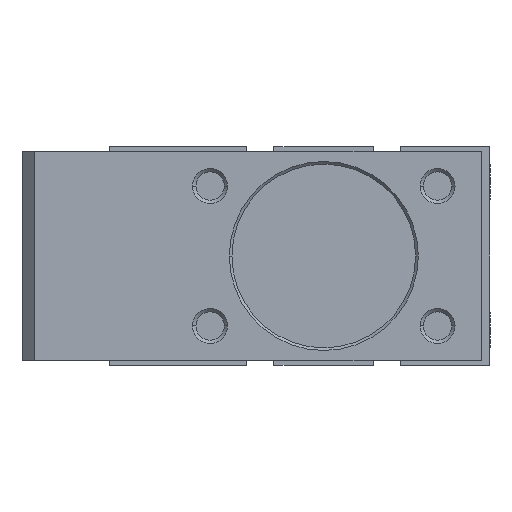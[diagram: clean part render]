
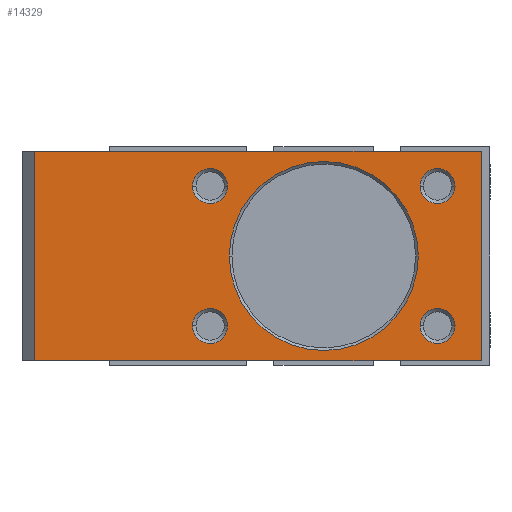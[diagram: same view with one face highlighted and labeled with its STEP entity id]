
A CAD part, left-side view. The second image highlights one B-rep face of the part: STEP entity #14329.
In plain terms, the highlighted planar face has unit normal (-1, 0, 0).
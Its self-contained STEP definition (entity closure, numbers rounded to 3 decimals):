
#66 = FACE_BOUND ( 'NONE', #10476, .T. ) ;
#114 = ORIENTED_EDGE ( 'NONE', *, *, #10474, .F. ) ;
#124 = EDGE_CURVE ( 'NONE', #5939, #2381, #213, .T. ) ;
#213 = CIRCLE ( 'NONE', #2048, 2. ) ;
#225 = LINE ( 'NONE', #11990, #7304 ) ;
#234 = FACE_BOUND ( 'NONE', #10668, .T. ) ;
#308 = CARTESIAN_POINT ( 'NONE',  ( -14., -18., 12. ) ) ;
#766 = DIRECTION ( 'NONE',  ( -1., 0., 0. ) ) ;
#903 = EDGE_LOOP ( 'NONE', ( #1258, #8135 ) ) ;
#939 = CIRCLE ( 'NONE', #4715, 10.8 ) ;
#984 = DIRECTION ( 'NONE',  ( -1., 0., 0. ) ) ;
#1028 = CARTESIAN_POINT ( 'NONE',  ( -14., -13., 8. ) ) ;
#1218 = VERTEX_POINT ( 'NONE', #12277 ) ;
#1245 = CIRCLE ( 'NONE', #11069, 2. ) ;
#1258 = ORIENTED_EDGE ( 'NONE', *, *, #3935, .F. ) ;
#1514 = LINE ( 'NONE', #11124, #2016 ) ;
#1651 = CIRCLE ( 'NONE', #1717, 2. ) ;
#1655 = ORIENTED_EDGE ( 'NONE', *, *, #6856, .F. ) ;
#1677 = FACE_BOUND ( 'NONE', #8146, .T. ) ;
#1717 = AXIS2_PLACEMENT_3D ( 'NONE', #3598, #13664, #2322 ) ;
#1776 = ORIENTED_EDGE ( 'NONE', *, *, #8162, .F. ) ;
#1854 = CIRCLE ( 'NONE', #3685, 2. ) ;
#1886 = DIRECTION ( 'NONE',  ( -1., 0., 0. ) ) ;
#2016 = VECTOR ( 'NONE', #3252, 1000. ) ;
#2048 = AXIS2_PLACEMENT_3D ( 'NONE', #12301, #8964, #14433 ) ;
#2102 = DIRECTION ( 'NONE',  ( 0., -1., 0. ) ) ;
#2136 = VERTEX_POINT ( 'NONE', #3632 ) ;
#2322 = DIRECTION ( 'NONE',  ( 0., -1., 0. ) ) ;
#2381 = VERTEX_POINT ( 'NONE', #7102 ) ;
#2536 = EDGE_LOOP ( 'NONE', ( #9737, #12444, #11538, #6175 ) ) ;
#2829 = LINE ( 'NONE', #12435, #9996 ) ;
#3013 = DIRECTION ( 'NONE',  ( 0., -1., 0. ) ) ;
#3023 = VERTEX_POINT ( 'NONE', #5671 ) ;
#3252 = DIRECTION ( 'NONE',  ( 0., 0., -1. ) ) ;
#3308 = DIRECTION ( 'NONE',  ( -1., 0., 0. ) ) ;
#3582 = AXIS2_PLACEMENT_3D ( 'NONE', #7535, #12049, #2102 ) ;
#3598 = CARTESIAN_POINT ( 'NONE',  ( -14., -13., -8. ) ) ;
#3632 = CARTESIAN_POINT ( 'NONE',  ( -14., 11., 8. ) ) ;
#3677 = CARTESIAN_POINT ( 'NONE',  ( -14., 10.8, 0. ) ) ;
#3685 = AXIS2_PLACEMENT_3D ( 'NONE', #8870, #13357, #5070 ) ;
#3723 = ORIENTED_EDGE ( 'NONE', *, *, #12947, .F. ) ;
#3935 = EDGE_CURVE ( 'NONE', #11330, #14163, #1854, .T. ) ;
#3984 = VERTEX_POINT ( 'NONE', #6118 ) ;
#4048 = DIRECTION ( 'NONE',  ( 0., -1., 0. ) ) ;
#4194 = PLANE ( 'NONE',  #7996 ) ;
#4291 = DIRECTION ( 'NONE',  ( 0., -1., 0. ) ) ;
#4715 = AXIS2_PLACEMENT_3D ( 'NONE', #13019, #13969, #4048 ) ;
#4779 = VERTEX_POINT ( 'NONE', #3677 ) ;
#5070 = DIRECTION ( 'NONE',  ( 0., -1., 0. ) ) ;
#5136 = AXIS2_PLACEMENT_3D ( 'NONE', #7470, #1886, #3013 ) ;
#5355 = CARTESIAN_POINT ( 'NONE',  ( -14., 33.086, 12. ) ) ;
#5383 = CIRCLE ( 'NONE', #11091, 2. ) ;
#5494 = DIRECTION ( 'NONE',  ( 1., 0., 0. ) ) ;
#5671 = CARTESIAN_POINT ( 'NONE',  ( -14., 33.086, 12. ) ) ;
#5688 = FACE_BOUND ( 'NONE', #903, .T. ) ;
#5719 = DIRECTION ( 'NONE',  ( -1., 0., 0. ) ) ;
#5828 = EDGE_LOOP ( 'NONE', ( #7207, #1776 ) ) ;
#5847 = VECTOR ( 'NONE', #10491, 1000. ) ;
#5865 = EDGE_CURVE ( 'NONE', #2136, #1218, #1245, .T. ) ;
#5939 = VERTEX_POINT ( 'NONE', #10069 ) ;
#6025 = CARTESIAN_POINT ( 'NONE',  ( -14., 0., -12. ) ) ;
#6118 = CARTESIAN_POINT ( 'NONE',  ( -14., -15., 8. ) ) ;
#6144 = CIRCLE ( 'NONE', #5136, 2. ) ;
#6175 = ORIENTED_EDGE ( 'NONE', *, *, #10422, .T. ) ;
#6337 = CARTESIAN_POINT ( 'NONE',  ( -14., 33.086, -12. ) ) ;
#6566 = EDGE_CURVE ( 'NONE', #3023, #6624, #2829, .T. ) ;
#6624 = VERTEX_POINT ( 'NONE', #308 ) ;
#6706 = CARTESIAN_POINT ( 'NONE',  ( -14., -15., -8. ) ) ;
#6856 = EDGE_CURVE ( 'NONE', #1218, #2136, #6144, .T. ) ;
#7102 = CARTESIAN_POINT ( 'NONE',  ( -14., 15., -8. ) ) ;
#7182 = VERTEX_POINT ( 'NONE', #12353 ) ;
#7207 = ORIENTED_EDGE ( 'NONE', *, *, #124, .F. ) ;
#7214 = CIRCLE ( 'NONE', #13980, 2. ) ;
#7304 = VECTOR ( 'NONE', #7526, 1000. ) ;
#7470 = CARTESIAN_POINT ( 'NONE',  ( -14., 13., 8. ) ) ;
#7524 = CIRCLE ( 'NONE', #9040, 2. ) ;
#7526 = DIRECTION ( 'NONE',  ( 0., 0., 1. ) ) ;
#7535 = CARTESIAN_POINT ( 'NONE',  ( -14., 0., 0. ) ) ;
#7769 = EDGE_CURVE ( 'NONE', #3984, #7182, #5383, .T. ) ;
#7826 = DIRECTION ( 'NONE',  ( 0., -1., 0. ) ) ;
#7996 = AXIS2_PLACEMENT_3D ( 'NONE', #5355, #5494, #13258 ) ;
#8135 = ORIENTED_EDGE ( 'NONE', *, *, #10589, .F. ) ;
#8146 = EDGE_LOOP ( 'NONE', ( #114, #11965 ) ) ;
#8162 = EDGE_CURVE ( 'NONE', #2381, #5939, #7524, .T. ) ;
#8529 = CARTESIAN_POINT ( 'NONE',  ( -14., -10.8, 0. ) ) ;
#8707 = EDGE_CURVE ( 'NONE', #3023, #13773, #1514, .T. ) ;
#8870 = CARTESIAN_POINT ( 'NONE',  ( -14., -13., -8. ) ) ;
#8964 = DIRECTION ( 'NONE',  ( -1., 0., 0. ) ) ;
#9040 = AXIS2_PLACEMENT_3D ( 'NONE', #13041, #766, #11995 ) ;
#9237 = FACE_OUTER_BOUND ( 'NONE', #2536, .T. ) ;
#9459 = CARTESIAN_POINT ( 'NONE',  ( -14., -11., -8. ) ) ;
#9712 = EDGE_CURVE ( 'NONE', #4779, #13350, #13323, .T. ) ;
#9737 = ORIENTED_EDGE ( 'NONE', *, *, #10463, .T. ) ;
#9996 = VECTOR ( 'NONE', #7826, 1000. ) ;
#10069 = CARTESIAN_POINT ( 'NONE',  ( -14., 11., -8. ) ) ;
#10422 = EDGE_CURVE ( 'NONE', #13773, #12833, #12212, .T. ) ;
#10463 = EDGE_CURVE ( 'NONE', #12833, #6624, #225, .T. ) ;
#10474 = EDGE_CURVE ( 'NONE', #13350, #4779, #939, .T. ) ;
#10476 = EDGE_LOOP ( 'NONE', ( #13040, #1655 ) ) ;
#10491 = DIRECTION ( 'NONE',  ( 0., -1., 0. ) ) ;
#10589 = EDGE_CURVE ( 'NONE', #14163, #11330, #1651, .T. ) ;
#10668 = EDGE_LOOP ( 'NONE', ( #11536, #3723 ) ) ;
#11069 = AXIS2_PLACEMENT_3D ( 'NONE', #14519, #984, #12250 ) ;
#11091 = AXIS2_PLACEMENT_3D ( 'NONE', #1028, #5719, #12492 ) ;
#11124 = CARTESIAN_POINT ( 'NONE',  ( -14., 33.086, 12. ) ) ;
#11330 = VERTEX_POINT ( 'NONE', #6706 ) ;
#11536 = ORIENTED_EDGE ( 'NONE', *, *, #7769, .F. ) ;
#11538 = ORIENTED_EDGE ( 'NONE', *, *, #8707, .T. ) ;
#11965 = ORIENTED_EDGE ( 'NONE', *, *, #9712, .F. ) ;
#11990 = CARTESIAN_POINT ( 'NONE',  ( -14., -18., 12. ) ) ;
#11995 = DIRECTION ( 'NONE',  ( 0., -1., 0. ) ) ;
#12049 = DIRECTION ( 'NONE',  ( -1., 0., 0. ) ) ;
#12212 = LINE ( 'NONE', #6025, #5847 ) ;
#12250 = DIRECTION ( 'NONE',  ( 0., -1., 0. ) ) ;
#12277 = CARTESIAN_POINT ( 'NONE',  ( -14., 15., 8. ) ) ;
#12301 = CARTESIAN_POINT ( 'NONE',  ( -14., 13., -8. ) ) ;
#12353 = CARTESIAN_POINT ( 'NONE',  ( -14., -11., 8. ) ) ;
#12435 = CARTESIAN_POINT ( 'NONE',  ( -14., 0., 12. ) ) ;
#12444 = ORIENTED_EDGE ( 'NONE', *, *, #6566, .F. ) ;
#12492 = DIRECTION ( 'NONE',  ( 0., -1., 0. ) ) ;
#12833 = VERTEX_POINT ( 'NONE', #13073 ) ;
#12945 = FACE_BOUND ( 'NONE', #5828, .T. ) ;
#12947 = EDGE_CURVE ( 'NONE', #7182, #3984, #7214, .T. ) ;
#13019 = CARTESIAN_POINT ( 'NONE',  ( -14., 0., 0. ) ) ;
#13040 = ORIENTED_EDGE ( 'NONE', *, *, #5865, .F. ) ;
#13041 = CARTESIAN_POINT ( 'NONE',  ( -14., 13., -8. ) ) ;
#13073 = CARTESIAN_POINT ( 'NONE',  ( -14., -18., -12. ) ) ;
#13258 = DIRECTION ( 'NONE',  ( 0., 0., -1. ) ) ;
#13313 = CARTESIAN_POINT ( 'NONE',  ( -14., -13., 8. ) ) ;
#13323 = CIRCLE ( 'NONE', #3582, 10.8 ) ;
#13350 = VERTEX_POINT ( 'NONE', #8529 ) ;
#13357 = DIRECTION ( 'NONE',  ( -1., 0., 0. ) ) ;
#13664 = DIRECTION ( 'NONE',  ( -1., 0., 0. ) ) ;
#13773 = VERTEX_POINT ( 'NONE', #6337 ) ;
#13969 = DIRECTION ( 'NONE',  ( -1., 0., 0. ) ) ;
#13980 = AXIS2_PLACEMENT_3D ( 'NONE', #13313, #3308, #4291 ) ;
#14163 = VERTEX_POINT ( 'NONE', #9459 ) ;
#14329 = ADVANCED_FACE ( 'NONE', ( #5688, #12945, #66, #1677, #234, #9237 ), #4194, .F. ) ;
#14433 = DIRECTION ( 'NONE',  ( 0., -1., 0. ) ) ;
#14519 = CARTESIAN_POINT ( 'NONE',  ( -14., 13., 8. ) ) ;
